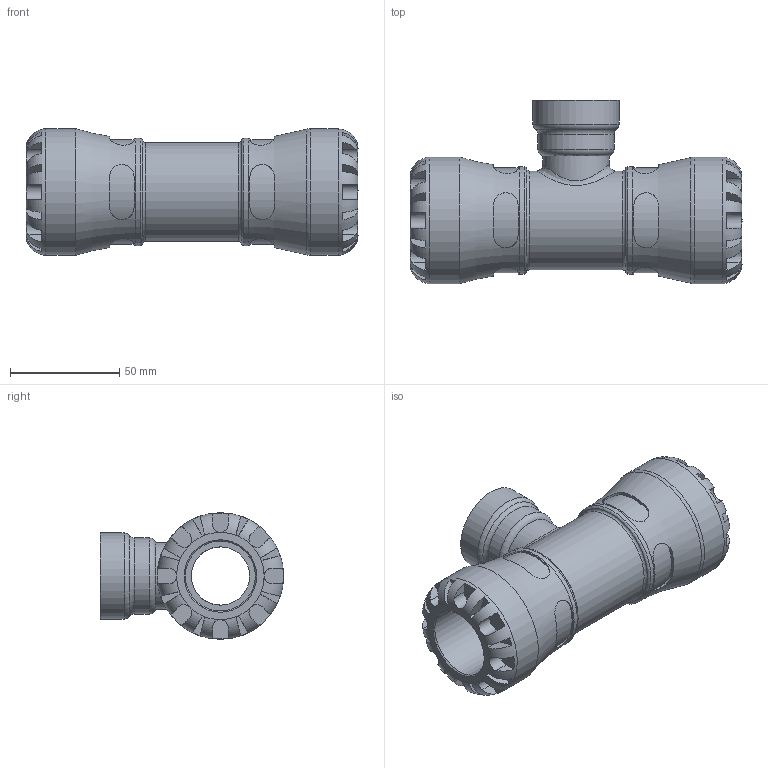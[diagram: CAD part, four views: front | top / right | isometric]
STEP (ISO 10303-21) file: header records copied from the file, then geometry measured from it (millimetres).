
FILE_DESCRIPTION(/* description */ ('PLASSON TEE WITH THREADED FEMALE OFFTAKE 32X1" SERIES 1'),/* implementation_level */ '2;1');
FILE_NAME(/* name */ 'C:\Dropbox\KIMPROJECTS-Inventor\99-16-3568-Processing\1014\101400032010_191400032010.ipt.stp',/* time_stamp */ '2017-01-30T09:06:25+02:00',/* author */ ('KIM'),/* organization */ (''),/* preprocessor_version */ 'ST-DEVELOPER v15.6',/* originating_system */ 'Autodesk Inventor 2015',/* authorisation */ '');
FILE_SCHEMA (('AUTOMOTIVE_DESIGN { 1 0 10303 214 3 1 1 }'));
Length unit declared in the file: millimetre
Products named in the file (1): 101400032010_191400032010
Bounding box: 152 x 84 x 58 mm (x, y, z)
Volume: 203547.7 mm3; surface area: 53207.2 mm2
Topology: 1 solids, 1 shells, 202 faces, 510 edges, 319 vertices
Faces by surface type: plane 118, cylinder 69, torus 12, cone 2, bspline 1
Full cylindrical faces by diameter (mm): 25.747 x1, 26.667 x1, 30.291 x2, 32 x2, 34.835 x1, 39.378 x1, 45.24 x1, 49.3 x2, 58 x2
Entity records: 7841 total; most frequent: CARTESIAN_POINT 3097, ORIENTED_EDGE 932, DIRECTION 914, EDGE_CURVE 466, AXIS2_PLACEMENT_3D 377, VERTEX_POINT 305, EDGE_LOOP 245, STYLED_ITEM 203
